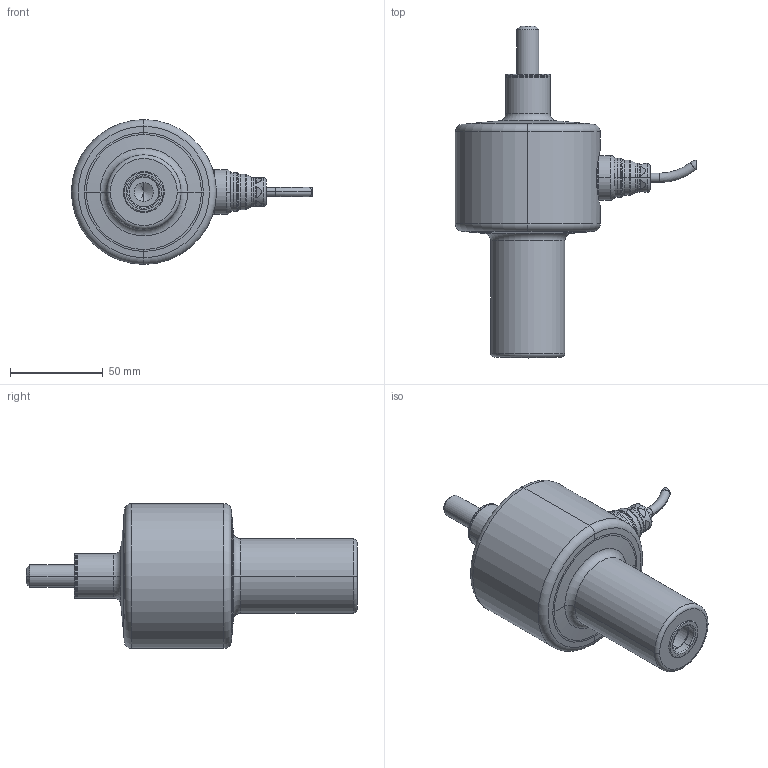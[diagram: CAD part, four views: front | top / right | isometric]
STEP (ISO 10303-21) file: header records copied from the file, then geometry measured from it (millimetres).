
FILE_DESCRIPTION((''),'1');
FILE_NAME('LFLA_3A_M12_1000-2000_kg.step','2024-07-02T08:31:34',(''),(''),'','','');
FILE_SCHEMA(('AUTOMOTIVE_DESIGN { 1 0 10303 214 1 1 1 1 }'));
Length unit declared in the file: metre
Products named in the file (10): LFLA connector 01; LFLA body 01; LFLA cable 01; LFLA cable gland 01; LFLA cable gland 02; LFLA part 02; LFLA connector 02; LFLA O-ring 01; LFLA O-ring 02; LFLA 3A_M12_1000-2000_kg
Assembly tree (9 placements, depth 3):
  LFLA 3A_M12_1000-2000_kg
    LFLA connector 01
      LFLA body 01
      LFLA cable 01
      LFLA cable gland 01
      LFLA cable gland 02
      LFLA part 02
      LFLA connector 02
      LFLA O-ring 01
      LFLA O-ring 02
Bounding box: 129.85 x 178.75 x 78 mm (x, y, z)
Volume: 388647.2 mm3; surface area: 67411.8 mm2
Topology: 8 solids, 8 shells, 176 faces, 346 edges, 201 vertices
Faces by surface type: cylinder 72, torus 54, plane 32, cone 18
Entity records: 5187 total; most frequent: CARTESIAN_POINT 1098, DIRECTION 952, ORIENTED_EDGE 688, AXIS2_PLACEMENT_3D 431, EDGE_CURVE 344, CIRCLE 238, EDGE_LOOP 205, VERTEX_POINT 201
